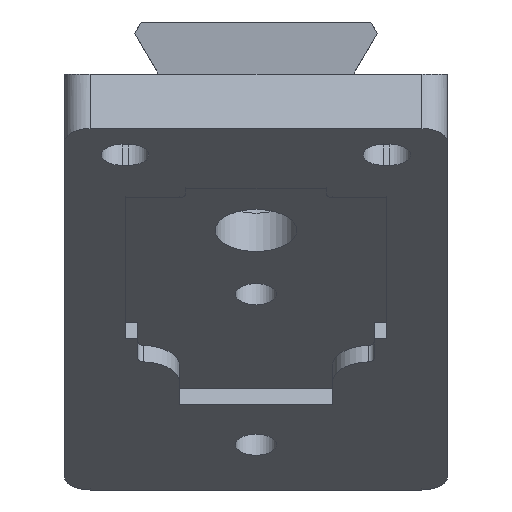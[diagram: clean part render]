
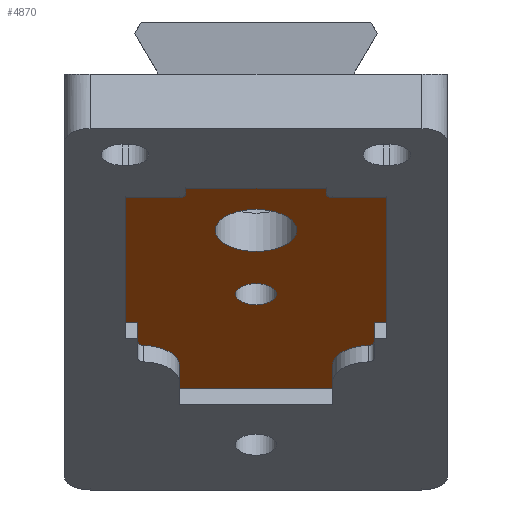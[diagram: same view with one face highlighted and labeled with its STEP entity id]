
A CAD part, left-side view. The second image highlights one B-rep face of the part: STEP entity #4870.
In plain terms, the highlighted planar face has unit normal (-0.515, 0, -0.857).
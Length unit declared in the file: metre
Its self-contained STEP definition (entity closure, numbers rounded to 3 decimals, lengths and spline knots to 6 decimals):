
#292=CIRCLE('',#4912,0.0016);
#294=CIRCLE('',#4915,0.0032);
#343=CIRCLE('',#5168,0.0005);
#344=CIRCLE('',#5169,0.003);
#345=CIRCLE('',#5170,0.003);
#346=CIRCLE('',#5171,0.0005);
#347=CIRCLE('',#5172,0.0005);
#348=CIRCLE('',#5173,0.0005);
#1693=ORIENTED_EDGE('',*,*,#2436,.T.);
#1694=ORIENTED_EDGE('',*,*,#2450,.T.);
#1695=ORIENTED_EDGE('',*,*,#2451,.T.);
#1696=ORIENTED_EDGE('',*,*,#2437,.T.);
#1697=ORIENTED_EDGE('',*,*,#2441,.T.);
#1698=ORIENTED_EDGE('',*,*,#2443,.F.);
#1699=ORIENTED_EDGE('',*,*,#2452,.T.);
#1700=ORIENTED_EDGE('',*,*,#2453,.T.);
#1701=ORIENTED_EDGE('',*,*,#2444,.F.);
#1702=ORIENTED_EDGE('',*,*,#2448,.F.);
#1703=ORIENTED_EDGE('',*,*,#2449,.T.);
#1704=ORIENTED_EDGE('',*,*,#2419,.F.);
#1705=ORIENTED_EDGE('',*,*,#2454,.T.);
#1706=ORIENTED_EDGE('',*,*,#2421,.T.);
#1707=ORIENTED_EDGE('',*,*,#2425,.T.);
#1708=ORIENTED_EDGE('',*,*,#2427,.F.);
#1709=ORIENTED_EDGE('',*,*,#2455,.T.);
#1710=ORIENTED_EDGE('',*,*,#2428,.F.);
#1711=ORIENTED_EDGE('',*,*,#2432,.F.);
#1712=ORIENTED_EDGE('',*,*,#2434,.F.);
#1713=ORIENTED_EDGE('',*,*,#1793,.F.);
#1714=ORIENTED_EDGE('',*,*,#1795,.F.);
#1793=EDGE_CURVE('',#2496,#2496,#292,.T.);
#1795=EDGE_CURVE('',#2498,#2498,#294,.T.);
#2419=EDGE_CURVE('',#2911,#2912,#3372,.T.);
#2421=EDGE_CURVE('',#2913,#2914,#3374,.T.);
#2425=EDGE_CURVE('',#2914,#2915,#3378,.T.);
#2427=EDGE_CURVE('',#2916,#2915,#3380,.T.);
#2428=EDGE_CURVE('',#2917,#2918,#3381,.T.);
#2432=EDGE_CURVE('',#2919,#2917,#3385,.T.);
#2434=EDGE_CURVE('',#2920,#2919,#3387,.T.);
#2436=EDGE_CURVE('',#2920,#2921,#3389,.T.);
#2437=EDGE_CURVE('',#2922,#2923,#3390,.T.);
#2441=EDGE_CURVE('',#2923,#2924,#3394,.T.);
#2443=EDGE_CURVE('',#2925,#2924,#3396,.T.);
#2444=EDGE_CURVE('',#2926,#2927,#3397,.T.);
#2448=EDGE_CURVE('',#2928,#2926,#3401,.T.);
#2449=EDGE_CURVE('',#2928,#2912,#3402,.T.);
#2450=EDGE_CURVE('',#2921,#2929,#343,.T.);
#2451=EDGE_CURVE('',#2929,#2922,#344,.F.);
#2452=EDGE_CURVE('',#2925,#2930,#345,.F.);
#2453=EDGE_CURVE('',#2930,#2927,#346,.T.);
#2454=EDGE_CURVE('',#2911,#2913,#347,.F.);
#2455=EDGE_CURVE('',#2916,#2918,#348,.F.);
#2496=VERTEX_POINT('',#6320);
#2498=VERTEX_POINT('',#6325);
#2911=VERTEX_POINT('',#8319);
#2912=VERTEX_POINT('',#8321);
#2913=VERTEX_POINT('',#8325);
#2914=VERTEX_POINT('',#8326);
#2915=VERTEX_POINT('',#8331);
#2916=VERTEX_POINT('',#8335);
#2917=VERTEX_POINT('',#8339);
#2918=VERTEX_POINT('',#8340);
#2919=VERTEX_POINT('',#8345);
#2920=VERTEX_POINT('',#8349);
#2921=VERTEX_POINT('',#8353);
#2922=VERTEX_POINT('',#8357);
#2923=VERTEX_POINT('',#8358);
#2924=VERTEX_POINT('',#8363);
#2925=VERTEX_POINT('',#8367);
#2926=VERTEX_POINT('',#8371);
#2927=VERTEX_POINT('',#8372);
#2928=VERTEX_POINT('',#8377);
#2929=VERTEX_POINT('',#8383);
#2930=VERTEX_POINT('',#8386);
#3372=LINE('',#8320,#3846);
#3374=LINE('',#8324,#3848);
#3378=LINE('',#8332,#3852);
#3380=LINE('',#8336,#3854);
#3381=LINE('',#8338,#3855);
#3385=LINE('',#8346,#3859);
#3387=LINE('',#8350,#3861);
#3389=LINE('',#8354,#3863);
#3390=LINE('',#8356,#3864);
#3394=LINE('',#8364,#3868);
#3396=LINE('',#8368,#3870);
#3397=LINE('',#8370,#3871);
#3401=LINE('',#8378,#3875);
#3402=LINE('',#8380,#3876);
#3846=VECTOR('',#6147,1.);
#3848=VECTOR('',#6151,1.);
#3852=VECTOR('',#6157,1.);
#3854=VECTOR('',#6161,1.);
#3855=VECTOR('',#6164,1.);
#3859=VECTOR('',#6170,1.);
#3861=VECTOR('',#6174,1.);
#3863=VECTOR('',#6178,1.);
#3864=VECTOR('',#6181,1.);
#3868=VECTOR('',#6187,1.);
#3870=VECTOR('',#6191,1.);
#3871=VECTOR('',#6194,1.);
#3875=VECTOR('',#6200,1.);
#3876=VECTOR('',#6203,1.);
#4162=EDGE_LOOP('',(#1693,#1694,#1695,#1696,#1697,#1698,#1699,#1700,#1701,
#1702,#1703,#1704,#1705,#1706,#1707,#1708,#1709,#1710,#1711,#1712));
#4163=EDGE_LOOP('',(#1713));
#4164=EDGE_LOOP('',(#1714));
#4458=FACE_BOUND('',#4162,.T.);
#4459=FACE_BOUND('',#4163,.T.);
#4460=FACE_BOUND('',#4164,.T.);
#4621=PLANE('',#5167);
#4870=ADVANCED_FACE('',(#4458,#4459,#4460),#4621,.T.);
#4912=AXIS2_PLACEMENT_3D('',#6319,#5244,#5245);
#4915=AXIS2_PLACEMENT_3D('',#6324,#5250,#5251);
#5167=AXIS2_PLACEMENT_3D('',#8381,#6204,#6205);
#5168=AXIS2_PLACEMENT_3D('',#8382,#6206,#6207);
#5169=AXIS2_PLACEMENT_3D('',#8384,#6208,#6209);
#5170=AXIS2_PLACEMENT_3D('',#8385,#6210,#6211);
#5171=AXIS2_PLACEMENT_3D('',#8387,#6212,#6213);
#5172=AXIS2_PLACEMENT_3D('',#8388,#6214,#6215);
#5173=AXIS2_PLACEMENT_3D('',#8389,#6216,#6217);
#5244=DIRECTION('',(-0.515,0.,-0.857));
#5245=DIRECTION('',(-0.857,0.,0.515));
#5250=DIRECTION('',(-0.515,0.,-0.857));
#5251=DIRECTION('',(-0.857,0.,0.515));
#6147=DIRECTION('',(0.,-1.,0.));
#6151=DIRECTION('',(-0.857,0.,0.515));
#6157=DIRECTION('',(0.,1.,0.));
#6161=DIRECTION('',(-0.857,0.,0.515));
#6164=DIRECTION('',(0.,-1.,0.));
#6170=DIRECTION('',(-0.857,0.,0.515));
#6174=DIRECTION('',(0.,1.,0.));
#6178=DIRECTION('',(0.857,0.,-0.515));
#6181=DIRECTION('',(0.857,0.,-0.515));
#6187=DIRECTION('',(0.,-1.,0.));
#6191=DIRECTION('',(0.857,0.,-0.515));
#6194=DIRECTION('',(0.857,0.,-0.515));
#6200=DIRECTION('',(0.,1.,0.));
#6203=DIRECTION('',(-0.857,0.,0.515));
#6204=DIRECTION('',(-0.515,0.,-0.857));
#6205=DIRECTION('',(0.857,0.,-0.515));
#6206=DIRECTION('',(-0.515,0.,-0.857));
#6207=DIRECTION('',(-0.857,0.,0.515));
#6208=DIRECTION('',(-0.515,0.,-0.857));
#6209=DIRECTION('',(-0.857,0.,0.515));
#6210=DIRECTION('',(-0.515,0.,-0.857));
#6211=DIRECTION('',(-0.857,0.,0.515));
#6212=DIRECTION('',(-0.515,0.,-0.857));
#6213=DIRECTION('',(-0.857,0.,0.515));
#6214=DIRECTION('',(-0.515,0.,-0.857));
#6215=DIRECTION('',(-0.857,0.,0.515));
#6216=DIRECTION('',(-0.515,0.,-0.857));
#6217=DIRECTION('',(-0.857,0.,0.515));
#6319=CARTESIAN_POINT('',(0.021965,0.,-0.017226));
#6320=CARTESIAN_POINT('',(0.020594,0.,-0.016402));
#6324=CARTESIAN_POINT('',(0.013651,0.,-0.01223));
#6325=CARTESIAN_POINT('',(0.010908,0.,-0.010582));
#8319=CARTESIAN_POINT('',(0.007222,-0.006,-0.008367));
#8320=CARTESIAN_POINT('',(0.007222,-0.007875,-0.008367));
#8321=CARTESIAN_POINT('',(0.007222,-0.01025,-0.008367));
#8324=CARTESIAN_POINT('',(0.006622,-0.0055,-0.008007));
#8325=CARTESIAN_POINT('',(0.006793,-0.0055,-0.00811));
#8326=CARTESIAN_POINT('',(0.006022,-0.0055,-0.007646));
#8331=CARTESIAN_POINT('',(0.006022,0.0055,-0.007646));
#8332=CARTESIAN_POINT('',(0.006022,0.,-0.007646));
#8335=CARTESIAN_POINT('',(0.006793,0.0055,-0.00811));
#8336=CARTESIAN_POINT('',(0.006622,0.0055,-0.008007));
#8338=CARTESIAN_POINT('',(0.007222,0.007875,-0.008367));
#8339=CARTESIAN_POINT('',(0.007222,0.01025,-0.008367));
#8340=CARTESIAN_POINT('',(0.007222,0.006,-0.008367));
#8345=CARTESIAN_POINT('',(0.025651,0.01025,-0.019441));
#8346=CARTESIAN_POINT('',(0.016437,0.01025,-0.013904));
#8349=CARTESIAN_POINT('',(0.025651,0.00925,-0.019441));
#8350=CARTESIAN_POINT('',(0.025651,0.00975,-0.019441));
#8353=CARTESIAN_POINT('',(0.02823,0.00925,-0.02099));
#8354=CARTESIAN_POINT('',(0.027151,0.00925,-0.020342));
#8356=CARTESIAN_POINT('',(0.031437,0.006,-0.022917));
#8357=CARTESIAN_POINT('',(0.031223,0.006,-0.022788));
#8358=CARTESIAN_POINT('',(0.034223,0.006,-0.024591));
#8363=CARTESIAN_POINT('',(0.034223,-0.006,-0.024591));
#8364=CARTESIAN_POINT('',(0.034223,0.,-0.024591));
#8367=CARTESIAN_POINT('',(0.031223,-0.006,-0.022788));
#8368=CARTESIAN_POINT('',(0.031437,-0.006,-0.022917));
#8370=CARTESIAN_POINT('',(0.027151,-0.00925,-0.020342));
#8371=CARTESIAN_POINT('',(0.025651,-0.00925,-0.019441));
#8372=CARTESIAN_POINT('',(0.02823,-0.00925,-0.02099));
#8377=CARTESIAN_POINT('',(0.025651,-0.01025,-0.019441));
#8378=CARTESIAN_POINT('',(0.025651,-0.00975,-0.019441));
#8380=CARTESIAN_POINT('',(0.019651,-0.01025,-0.015835));
#8381=CARTESIAN_POINT('',(0.021794,0.,-0.017123));
#8382=CARTESIAN_POINT('',(0.02823,0.00875,-0.02099));
#8383=CARTESIAN_POINT('',(0.028658,0.008786,-0.021247));
#8384=CARTESIAN_POINT('',(0.031223,0.009,-0.022788));
#8385=CARTESIAN_POINT('',(0.031223,-0.009,-0.022788));
#8386=CARTESIAN_POINT('',(0.028658,-0.008786,-0.021247));
#8387=CARTESIAN_POINT('',(0.02823,-0.00875,-0.02099));
#8388=CARTESIAN_POINT('',(0.006793,-0.006,-0.00811));
#8389=CARTESIAN_POINT('',(0.006793,0.006,-0.00811));
